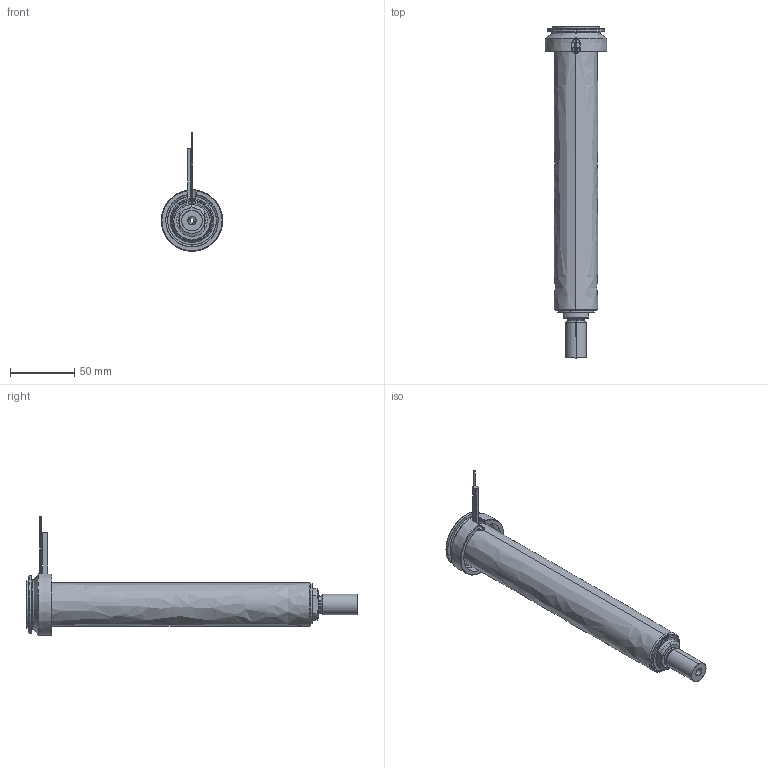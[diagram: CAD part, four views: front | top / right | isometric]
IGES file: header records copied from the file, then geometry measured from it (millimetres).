
Start section: SolidWorks IGES file using analytic representation for surfaces
Global section: file name: C:\Documents and Settings\ws-20\Desktop\TEMPORANEA\UGBE5005-M-A-P-3 [Ød-3.0 P-25 ØC-12].IGS; native system: SolidWorks 2012; preprocessor: SolidWorks 2012; author: ws-20; date: 120306.150239; units: millimetre
Bounding box: 48 x 259.25 x 92.62 mm (x, y, z)
Surface area: 88190.5 mm2 (no closed solid volume)
Topology: 0 solids, 0 shells, 108 faces, 2040 edges, 2040 vertices
Faces by surface type: revolution 61, bspline 47
